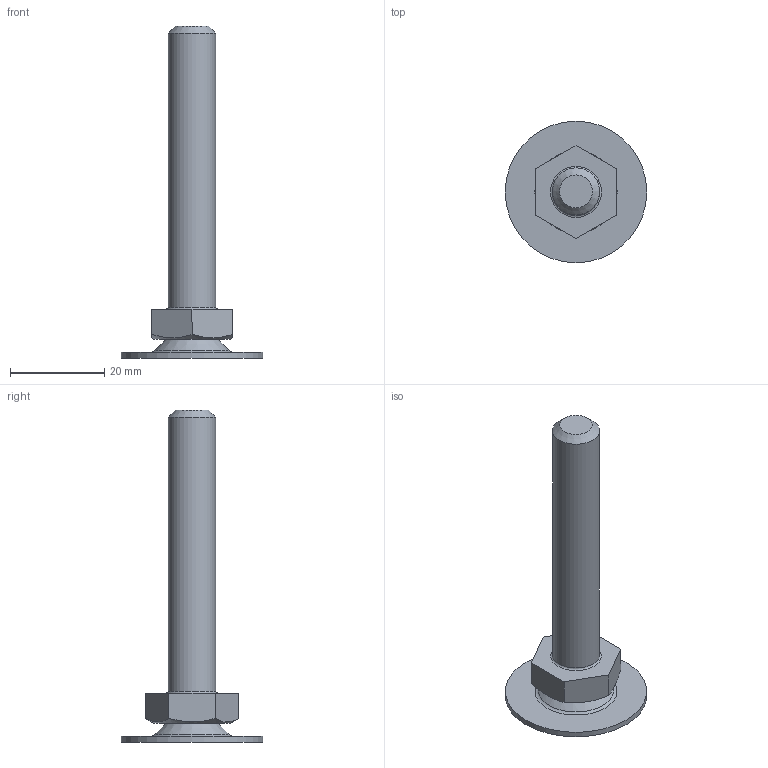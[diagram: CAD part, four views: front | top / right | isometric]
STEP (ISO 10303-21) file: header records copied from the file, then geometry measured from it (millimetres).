
FILE_DESCRIPTION(('STEP AP203'), '1');
FILE_NAME('A00050.1031016', '', ('UNSPECIFIED'), ('UNSPECIFIED'), 'C3D Converter', 'C3D Toolkit', '');
FILE_SCHEMA(('CONFIG_CONTROL_DESIGN'));
Length unit declared in the file: millimetre
Products named in the file (4): A00050.1031060; A00050.1030
Assembly tree (3 placements, depth 2):
  A00050.1031060
    A00050.1030
    (unnamed)
    (unnamed)
Bounding box: 30 x 30 x 70.38 mm (x, y, z)
Volume: 7168.6 mm3; surface area: 4755.1 mm2
Topology: 3 solids, 3 shells, 58 faces, 130 edges, 82 vertices
Faces by surface type: plane 28, torus 8, bspline 8, cone 7, cylinder 6, sphere 1
Full cylindrical faces by diameter (mm): 3.3 x1, 4 x1, 4.5 x1, 8 x1, 10 x1, 30 x1
Entity records: 2171 total; most frequent: CARTESIAN_POINT 784, DIRECTION 242, ORIENTED_EDGE 214, EDGE_CURVE 107, AXIS2_PLACEMENT_3D 95, EDGE_LOOP 86, VERTEX_POINT 81, ADVANCED_FACE 58
